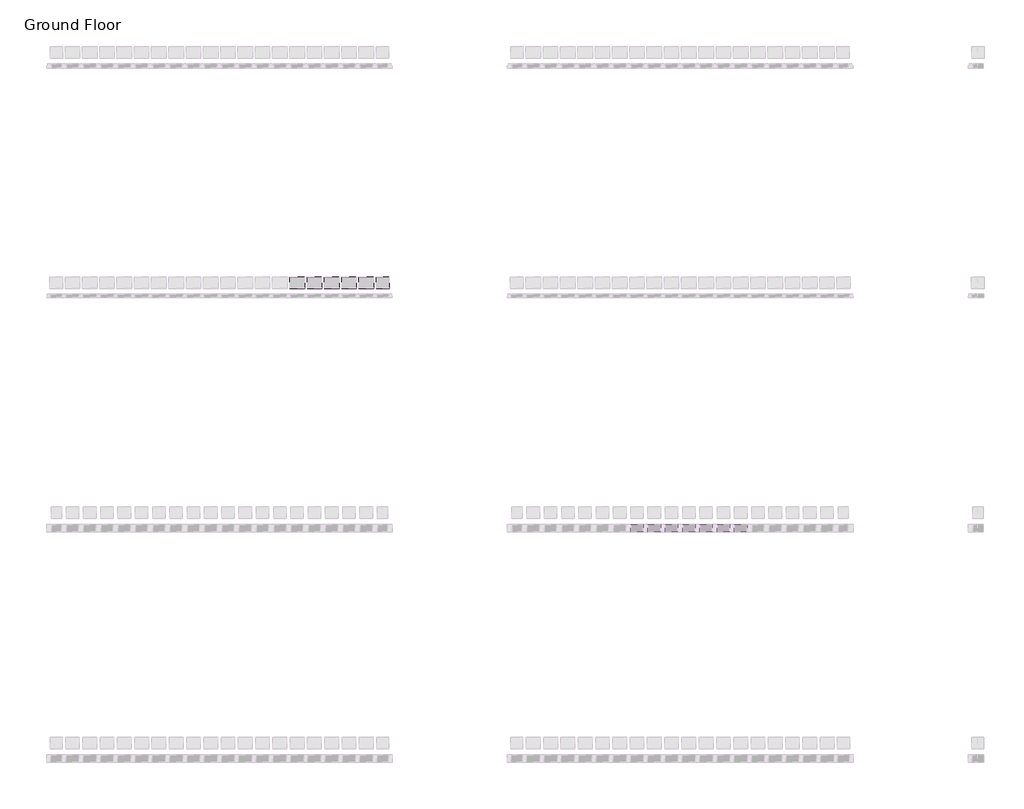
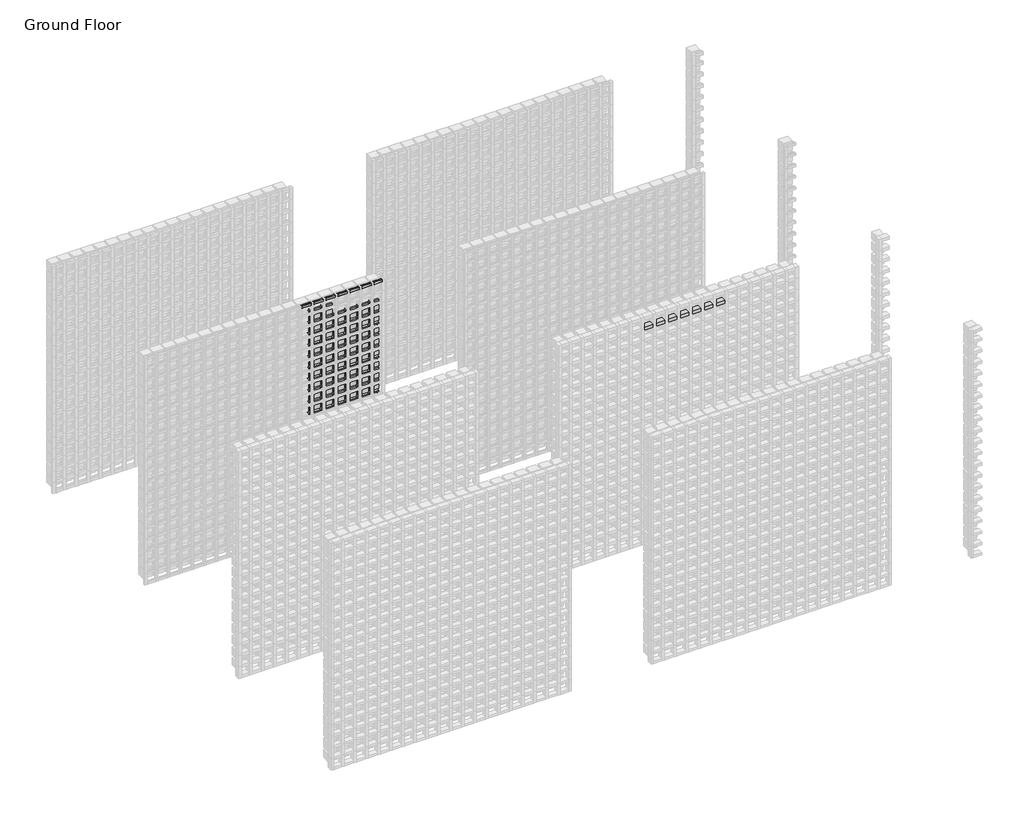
# One storey, part 100 of 350: 110 plates, 27 members.
"""IFC4 building model written with IfcOpenShell, lengths in millimetres."""

from ifc_helpers import new_model, si_unit, origin, place, context, project, spatial, transform, mapped, element, save
from components import rectangular_mullion_d93f5598, rectangular_mullion_f1976eb1, rectangular_mullion_66d447bf, rectangular_mullion_02594090, rectangular_mullion_7f8dba3f, rectangular_mullion_790ae51e, rectangular_mullion_a370a012, empty_system_panel_empty_5a3607ba, empty_system_panel_empty_babc703c, empty_system_panel_empty_56815599, empty_system_panel_empty_50ac6329

model = new_model("IFC4")

# Units and contexts
model_context = context("Model", 3, world=origin())
ifc_project = project(units=[si_unit("LENGTHUNIT", "METRE", prefix="MILLI")], contexts=[model_context])

# Site, building, storey
site = spatial("IfcSite", under=ifc_project)
building = spatial("IfcBuilding", under=site)
storey = spatial("IfcBuildingStorey", under=building, Name="Ground Floor", Elevation=0.0)

# Members
placement = place(None, origin())
rectangular_mullion_shape = rectangular_mullion_d93f5598(model_context)
element("IfcMember", 1, ObjectType="Rectangular Mullion : Batten_Timber_Modinex_Austratus_Grid_Fascia_40x65_Blackbutt", at=placement, inside=storey, context=model_context, shape_type="MappedRepresentation", body=[
    mapped(rectangular_mullion_shape, transform((7096.4361642, 40968.2978302, 2850.0), x_axis=(0.0, 0.0, 1.0), y_axis=(0.0, -1.0, 0.0), z_axis=(1.0, 0.0, 0.0))),
])
element("IfcMember", 2, ObjectType="Rectangular Mullion : Batten_Timber_Modinex_Austratus_Grid_Fascia_40x65_Blackbutt", at=placement, inside=storey, context=model_context, shape_type="MappedRepresentation", body=[
    mapped(rectangular_mullion_shape, transform((7246.4361642, 40968.2978302, 2850.0), x_axis=(0.0, 0.0, 1.0), y_axis=(0.0, -1.0, 0.0), z_axis=(1.0, 0.0, 0.0))),
])
element("IfcMember", 3, ObjectType="Rectangular Mullion : Batten_Timber_Modinex_Austratus_Grid_Fascia_40x65_Blackbutt", at=placement, inside=storey, context=model_context, shape_type="MappedRepresentation", body=[
    mapped(rectangular_mullion_shape, transform((7396.4361642, 40968.2978302, 2850.0), x_axis=(0.0, 0.0, 1.0), y_axis=(0.0, -1.0, 0.0), z_axis=(1.0, 0.0, 0.0))),
])
element("IfcMember", 4, ObjectType="Rectangular Mullion : Batten_Timber_Modinex_Austratus_Grid_Fascia_40x65_Blackbutt", at=placement, inside=storey, context=model_context, shape_type="MappedRepresentation", body=[
    mapped(rectangular_mullion_shape, transform((7546.4361642, 40968.2978302, 2850.0), x_axis=(0.0, 0.0, 1.0), y_axis=(0.0, -1.0, 0.0), z_axis=(1.0, 0.0, 0.0))),
])
element("IfcMember", 5, ObjectType="Rectangular Mullion : Batten_Timber_Modinex_Austratus_Grid_Fascia_40x65_Blackbutt", at=placement, inside=storey, context=model_context, shape_type="MappedRepresentation", body=[
    mapped(rectangular_mullion_shape, transform((7696.4361642, 40968.2978302, 2850.0), x_axis=(0.0, 0.0, 1.0), y_axis=(0.0, -1.0, 0.0), z_axis=(1.0, 0.0, 0.0))),
])
element("IfcMember", 6, ObjectType="Rectangular Mullion : Batten_Timber_Modinex_Austratus_Grid_Fascia_40x65_Blackbutt", at=placement, inside=storey, context=model_context, shape_type="MappedRepresentation", body=[
    mapped(rectangular_mullion_shape, transform((7846.4361642, 40968.2978302, 2850.0), x_axis=(0.0, 0.0, 1.0), y_axis=(0.0, -1.0, 0.0), z_axis=(1.0, 0.0, 0.0))),
])
element("IfcMember", 7, ObjectType="Rectangular Mullion : Batten_Timber_Modinex_Austratus_Grid_Fascia_40x65_Blackbutt", at=placement, inside=storey, context=model_context, shape_type="MappedRepresentation", body=[
    mapped(rectangular_mullion_shape, transform((7996.4361642, 40968.2978302, 2850.0), x_axis=(0.0, 0.0, 1.0), y_axis=(0.0, -1.0, 0.0), z_axis=(1.0, 0.0, 0.0))),
])
rectangular_mullion_2_shape = rectangular_mullion_f1976eb1(model_context)
element("IfcMember", 8, ObjectType="Rectangular Mullion : Batten_Timber_Modinex_Austratus_Grid_Fin_30x30_AlaskanYellowCedar", at=placement, inside=storey, context=model_context, shape_type="MappedRepresentation", body=[
    mapped(rectangular_mullion_2_shape, transform((4016.4361642, 42968.2978302, 0.0), x_axis=(1.0, 0.0, 0.0), y_axis=(0.0, -1.0, 0.0), z_axis=(0.0, 0.0, -1.0))),
])
element("IfcMember", 9, ObjectType="Rectangular Mullion : Batten_Timber_Modinex_Austratus_Grid_Fin_30x30_AlaskanYellowCedar", at=placement, inside=storey, context=model_context, shape_type="MappedRepresentation", body=[
    mapped(rectangular_mullion_2_shape, transform((4166.4361642, 42968.2978302, 0.0), x_axis=(1.0, 0.0, 0.0), y_axis=(0.0, -1.0, 0.0), z_axis=(0.0, 0.0, -1.0))),
])
element("IfcMember", 10, ObjectType="Rectangular Mullion : Batten_Timber_Modinex_Austratus_Grid_Fin_30x30_AlaskanYellowCedar", at=placement, inside=storey, context=model_context, shape_type="MappedRepresentation", body=[
    mapped(rectangular_mullion_2_shape, transform((4316.4361642, 42968.2978302, 0.0), x_axis=(1.0, 0.0, 0.0), y_axis=(0.0, -1.0, 0.0), z_axis=(0.0, 0.0, -1.0))),
])
element("IfcMember", 11, ObjectType="Rectangular Mullion : Batten_Timber_Modinex_Austratus_Grid_Fin_30x30_AlaskanYellowCedar", at=placement, inside=storey, context=model_context, shape_type="MappedRepresentation", body=[
    mapped(rectangular_mullion_2_shape, transform((4466.4361642, 42968.2978302, 0.0), x_axis=(1.0, 0.0, 0.0), y_axis=(0.0, -1.0, 0.0), z_axis=(0.0, 0.0, -1.0))),
])
element("IfcMember", 12, ObjectType="Rectangular Mullion : Batten_Timber_Modinex_Austratus_Grid_Fin_30x30_AlaskanYellowCedar", at=placement, inside=storey, context=model_context, shape_type="MappedRepresentation", body=[
    mapped(rectangular_mullion_2_shape, transform((4616.4361642, 42968.2978302, 0.0), x_axis=(1.0, 0.0, 0.0), y_axis=(0.0, -1.0, 0.0), z_axis=(0.0, 0.0, -1.0))),
])
element("IfcMember", 13, ObjectType="Rectangular Mullion : Batten_Timber_Modinex_Austratus_Grid_Fin_30x30_AlaskanYellowCedar", at=placement, inside=storey, context=model_context, shape_type="MappedRepresentation", body=[
    mapped(rectangular_mullion_2_shape, transform((4766.4361642, 42968.2978302, 0.0), x_axis=(1.0, 0.0, 0.0), y_axis=(0.0, -1.0, 0.0), z_axis=(0.0, 0.0, -1.0))),
])
rectangular_mullion_3_shape = rectangular_mullion_66d447bf(model_context)
element("IfcMember", 14, ObjectType="Rectangular Mullion : Batten_Timber_Modinex_Austratus_Grid_Fin_30x30_AlaskanYellowCedar", at=placement, inside=storey, context=model_context, shape_type="MappedRepresentation", body=[
    mapped(rectangular_mullion_3_shape, transform((4886.4361639, 42968.2978302, 3000.0), x_axis=(0.0, 0.0, 1.0), y_axis=(0.0, -1.0, 0.0), z_axis=(1.0, 0.0, 0.0))),
])
rectangular_mullion_4_shape = rectangular_mullion_02594090(model_context)
element("IfcMember", 15, ObjectType="Rectangular Mullion : Batten_Timber_Modinex_Austratus_Grid_Fin_30x30_AlaskanYellowCedar", at=placement, inside=storey, context=model_context, shape_type="MappedRepresentation", body=[
    mapped(rectangular_mullion_4_shape, transform((4001.4361642, 42968.2978302, 3000.0), x_axis=(0.0, 0.0, 1.0), y_axis=(0.0, -1.0, 0.0), z_axis=(1.0, 0.0, 0.0))),
])
element("IfcMember", 16, ObjectType="Rectangular Mullion : Batten_Timber_Modinex_Austratus_Grid_Fin_30x30_AlaskanYellowCedar", at=placement, inside=storey, context=model_context, shape_type="MappedRepresentation", body=[
    mapped(rectangular_mullion_4_shape, transform((4151.4361642, 42968.2978302, 3000.0), x_axis=(0.0, 0.0, 1.0), y_axis=(0.0, -1.0, 0.0), z_axis=(1.0, 0.0, 0.0))),
])
element("IfcMember", 17, ObjectType="Rectangular Mullion : Batten_Timber_Modinex_Austratus_Grid_Fin_30x30_AlaskanYellowCedar", at=placement, inside=storey, context=model_context, shape_type="MappedRepresentation", body=[
    mapped(rectangular_mullion_4_shape, transform((4301.4361642, 42968.2978302, 3000.0), x_axis=(0.0, 0.0, 1.0), y_axis=(0.0, -1.0, 0.0), z_axis=(1.0, 0.0, 0.0))),
])
element("IfcMember", 18, ObjectType="Rectangular Mullion : Batten_Timber_Modinex_Austratus_Grid_Fin_30x30_AlaskanYellowCedar", at=placement, inside=storey, context=model_context, shape_type="MappedRepresentation", body=[
    mapped(rectangular_mullion_4_shape, transform((4451.4361642, 42968.2978302, 3000.0), x_axis=(0.0, 0.0, 1.0), y_axis=(0.0, -1.0, 0.0), z_axis=(1.0, 0.0, 0.0))),
])
element("IfcMember", 19, ObjectType="Rectangular Mullion : Batten_Timber_Modinex_Austratus_Grid_Fin_30x30_AlaskanYellowCedar", at=placement, inside=storey, context=model_context, shape_type="MappedRepresentation", body=[
    mapped(rectangular_mullion_4_shape, transform((4601.4361642, 42968.2978302, 3000.0), x_axis=(0.0, 0.0, 1.0), y_axis=(0.0, -1.0, 0.0), z_axis=(1.0, 0.0, 0.0))),
])
element("IfcMember", 20, ObjectType="Rectangular Mullion : Batten_Timber_Modinex_Austratus_Grid_Fin_30x30_AlaskanYellowCedar", at=placement, inside=storey, context=model_context, shape_type="MappedRepresentation", body=[
    mapped(rectangular_mullion_4_shape, transform((4751.4361642, 42968.2978302, 3000.0), x_axis=(0.0, 0.0, 1.0), y_axis=(0.0, -1.0, 0.0), z_axis=(1.0, 0.0, 0.0))),
])
rectangular_mullion_5_shape = rectangular_mullion_7f8dba3f(model_context)
element("IfcMember", 21, ObjectType="Rectangular Mullion : Batten_Timber_Modinex_Austratus_Grid_Fin_30x30_AlaskanYellowCedar", at=placement, inside=storey, context=model_context, shape_type="MappedRepresentation", body=[
    mapped(rectangular_mullion_5_shape, transform((4781.4361642, 42968.2978302, 0.0), x_axis=(0.0, 0.0, -1.0), y_axis=(0.0, -1.0, 0.0), z_axis=(-1.0, 0.0, 0.0))),
])
rectangular_mullion_6_shape = rectangular_mullion_790ae51e(model_context)
element("IfcMember", 22, ObjectType="Rectangular Mullion : Batten_Timber_Modinex_Austratus_Grid_Fin_30x30_AlaskanYellowCedar", at=placement, inside=storey, context=model_context, shape_type="MappedRepresentation", body=[
    mapped(rectangular_mullion_6_shape, transform((4031.4361642, 42968.2978302, 0.0), x_axis=(0.0, 0.0, -1.0), y_axis=(0.0, -1.0, 0.0), z_axis=(-1.0, 0.0, 0.0))),
])
element("IfcMember", 23, ObjectType="Rectangular Mullion : Batten_Timber_Modinex_Austratus_Grid_Fin_30x30_AlaskanYellowCedar", at=placement, inside=storey, context=model_context, shape_type="MappedRepresentation", body=[
    mapped(rectangular_mullion_6_shape, transform((4181.4361642, 42968.2978302, 0.0), x_axis=(0.0, 0.0, -1.0), y_axis=(0.0, -1.0, 0.0), z_axis=(-1.0, 0.0, 0.0))),
])
element("IfcMember", 24, ObjectType="Rectangular Mullion : Batten_Timber_Modinex_Austratus_Grid_Fin_30x30_AlaskanYellowCedar", at=placement, inside=storey, context=model_context, shape_type="MappedRepresentation", body=[
    mapped(rectangular_mullion_6_shape, transform((4331.4361642, 42968.2978302, 0.0), x_axis=(0.0, 0.0, -1.0), y_axis=(0.0, -1.0, 0.0), z_axis=(-1.0, 0.0, 0.0))),
])
element("IfcMember", 25, ObjectType="Rectangular Mullion : Batten_Timber_Modinex_Austratus_Grid_Fin_30x30_AlaskanYellowCedar", at=placement, inside=storey, context=model_context, shape_type="MappedRepresentation", body=[
    mapped(rectangular_mullion_6_shape, transform((4481.4361642, 42968.2978302, 0.0), x_axis=(0.0, 0.0, -1.0), y_axis=(0.0, -1.0, 0.0), z_axis=(-1.0, 0.0, 0.0))),
])
element("IfcMember", 26, ObjectType="Rectangular Mullion : Batten_Timber_Modinex_Austratus_Grid_Fin_30x30_AlaskanYellowCedar", at=placement, inside=storey, context=model_context, shape_type="MappedRepresentation", body=[
    mapped(rectangular_mullion_6_shape, transform((4631.4361642, 42968.2978302, 0.0), x_axis=(0.0, 0.0, -1.0), y_axis=(0.0, -1.0, 0.0), z_axis=(-1.0, 0.0, 0.0))),
])
rectangular_mullion_7_shape = rectangular_mullion_a370a012(model_context)
element("IfcMember", 27, ObjectType="Rectangular Mullion : Batten_Timber_Modinex_Austratus_Grid_Fin_30x30_AlaskanYellowCedar", at=placement, inside=storey, context=model_context, shape_type="MappedRepresentation", body=[
    mapped(rectangular_mullion_7_shape, transform((4916.4361639, 42968.2978302, 0.0), x_axis=(1.0, 0.0, 0.0), y_axis=(0.0, -1.0, 0.0), z_axis=(0.0, 0.0, -1.0))),
])

# Plates
empty_system_panel_empty_shape = empty_system_panel_empty_5a3607ba(model_context)
element("IfcPlate", 28, ObjectType="Empty System Panel : Empty", at=placement, inside=storey, context=model_context, shape_type="MappedRepresentation", body=[
    mapped(empty_system_panel_empty_shape, transform((4091.4361642, 42968.2978302, 160.812195), x_axis=(1.0, 0.0, 0.0), y_axis=(0.0, 1.0, 0.0), z_axis=(0.0, 0.0, 1.0))),
])
element("IfcPlate", 29, ObjectType="Empty System Panel : Empty", at=placement, inside=storey, context=model_context, shape_type="MappedRepresentation", body=[
    mapped(empty_system_panel_empty_shape, transform((4241.4361642, 42968.2978302, 160.812195), x_axis=(1.0, 0.0, 0.0), y_axis=(0.0, 1.0, 0.0), z_axis=(0.0, 0.0, 1.0))),
])
element("IfcPlate", 30, ObjectType="Empty System Panel : Empty", at=placement, inside=storey, context=model_context, shape_type="MappedRepresentation", body=[
    mapped(empty_system_panel_empty_shape, transform((4391.4361642, 42968.2978302, 160.812195), x_axis=(1.0, 0.0, 0.0), y_axis=(0.0, 1.0, 0.0), z_axis=(0.0, 0.0, 1.0))),
])
element("IfcPlate", 31, ObjectType="Empty System Panel : Empty", at=placement, inside=storey, context=model_context, shape_type="MappedRepresentation", body=[
    mapped(empty_system_panel_empty_shape, transform((4541.4361642, 42968.2978302, 160.812195), x_axis=(1.0, 0.0, 0.0), y_axis=(0.0, 1.0, 0.0), z_axis=(0.0, 0.0, 1.0))),
])
element("IfcPlate", 32, ObjectType="Empty System Panel : Empty", at=placement, inside=storey, context=model_context, shape_type="MappedRepresentation", body=[
    mapped(empty_system_panel_empty_shape, transform((4691.4361642, 42968.2978302, 160.812195), x_axis=(1.0, 0.0, 0.0), y_axis=(0.0, 1.0, 0.0), z_axis=(0.0, 0.0, 1.0))),
])
element("IfcPlate", 33, ObjectType="Empty System Panel : Empty", at=placement, inside=storey, context=model_context, shape_type="MappedRepresentation", body=[
    mapped(empty_system_panel_empty_shape, transform((4091.4361642, 42968.2978302, 310.812195), x_axis=(1.0, 0.0, 0.0), y_axis=(0.0, 1.0, 0.0), z_axis=(0.0, 0.0, 1.0))),
])
element("IfcPlate", 34, ObjectType="Empty System Panel : Empty", at=placement, inside=storey, context=model_context, shape_type="MappedRepresentation", body=[
    mapped(empty_system_panel_empty_shape, transform((4241.4361642, 42968.2978302, 310.812195), x_axis=(1.0, 0.0, 0.0), y_axis=(0.0, 1.0, 0.0), z_axis=(0.0, 0.0, 1.0))),
])
element("IfcPlate", 35, ObjectType="Empty System Panel : Empty", at=placement, inside=storey, context=model_context, shape_type="MappedRepresentation", body=[
    mapped(empty_system_panel_empty_shape, transform((4391.4361642, 42968.2978302, 310.812195), x_axis=(1.0, 0.0, 0.0), y_axis=(0.0, 1.0, 0.0), z_axis=(0.0, 0.0, 1.0))),
])
element("IfcPlate", 36, ObjectType="Empty System Panel : Empty", at=placement, inside=storey, context=model_context, shape_type="MappedRepresentation", body=[
    mapped(empty_system_panel_empty_shape, transform((4541.4361642, 42968.2978302, 310.812195), x_axis=(1.0, 0.0, 0.0), y_axis=(0.0, 1.0, 0.0), z_axis=(0.0, 0.0, 1.0))),
])
element("IfcPlate", 37, ObjectType="Empty System Panel : Empty", at=placement, inside=storey, context=model_context, shape_type="MappedRepresentation", body=[
    mapped(empty_system_panel_empty_shape, transform((4691.4361642, 42968.2978302, 310.812195), x_axis=(1.0, 0.0, 0.0), y_axis=(0.0, 1.0, 0.0), z_axis=(0.0, 0.0, 1.0))),
])
element("IfcPlate", 38, ObjectType="Empty System Panel : Empty", at=placement, inside=storey, context=model_context, shape_type="MappedRepresentation", body=[
    mapped(empty_system_panel_empty_shape, transform((4091.4361642, 42968.2978302, 460.812195), x_axis=(1.0, 0.0, 0.0), y_axis=(0.0, 1.0, 0.0), z_axis=(0.0, 0.0, 1.0))),
])
element("IfcPlate", 39, ObjectType="Empty System Panel : Empty", at=placement, inside=storey, context=model_context, shape_type="MappedRepresentation", body=[
    mapped(empty_system_panel_empty_shape, transform((4241.4361642, 42968.2978302, 460.812195), x_axis=(1.0, 0.0, 0.0), y_axis=(0.0, 1.0, 0.0), z_axis=(0.0, 0.0, 1.0))),
])
element("IfcPlate", 40, ObjectType="Empty System Panel : Empty", at=placement, inside=storey, context=model_context, shape_type="MappedRepresentation", body=[
    mapped(empty_system_panel_empty_shape, transform((4391.4361642, 42968.2978302, 460.812195), x_axis=(1.0, 0.0, 0.0), y_axis=(0.0, 1.0, 0.0), z_axis=(0.0, 0.0, 1.0))),
])
element("IfcPlate", 41, ObjectType="Empty System Panel : Empty", at=placement, inside=storey, context=model_context, shape_type="MappedRepresentation", body=[
    mapped(empty_system_panel_empty_shape, transform((4541.4361642, 42968.2978302, 460.812195), x_axis=(1.0, 0.0, 0.0), y_axis=(0.0, 1.0, 0.0), z_axis=(0.0, 0.0, 1.0))),
])
element("IfcPlate", 42, ObjectType="Empty System Panel : Empty", at=placement, inside=storey, context=model_context, shape_type="MappedRepresentation", body=[
    mapped(empty_system_panel_empty_shape, transform((4691.4361642, 42968.2978302, 460.812195), x_axis=(1.0, 0.0, 0.0), y_axis=(0.0, 1.0, 0.0), z_axis=(0.0, 0.0, 1.0))),
])
element("IfcPlate", 43, ObjectType="Empty System Panel : Empty", at=placement, inside=storey, context=model_context, shape_type="MappedRepresentation", body=[
    mapped(empty_system_panel_empty_shape, transform((4091.4361642, 42968.2978302, 610.812195), x_axis=(1.0, 0.0, 0.0), y_axis=(0.0, 1.0, 0.0), z_axis=(0.0, 0.0, 1.0))),
])
element("IfcPlate", 44, ObjectType="Empty System Panel : Empty", at=placement, inside=storey, context=model_context, shape_type="MappedRepresentation", body=[
    mapped(empty_system_panel_empty_shape, transform((4241.4361642, 42968.2978302, 610.812195), x_axis=(1.0, 0.0, 0.0), y_axis=(0.0, 1.0, 0.0), z_axis=(0.0, 0.0, 1.0))),
])
element("IfcPlate", 45, ObjectType="Empty System Panel : Empty", at=placement, inside=storey, context=model_context, shape_type="MappedRepresentation", body=[
    mapped(empty_system_panel_empty_shape, transform((4391.4361642, 42968.2978302, 610.812195), x_axis=(1.0, 0.0, 0.0), y_axis=(0.0, 1.0, 0.0), z_axis=(0.0, 0.0, 1.0))),
])
element("IfcPlate", 46, ObjectType="Empty System Panel : Empty", at=placement, inside=storey, context=model_context, shape_type="MappedRepresentation", body=[
    mapped(empty_system_panel_empty_shape, transform((4541.4361642, 42968.2978302, 610.812195), x_axis=(1.0, 0.0, 0.0), y_axis=(0.0, 1.0, 0.0), z_axis=(0.0, 0.0, 1.0))),
])
element("IfcPlate", 47, ObjectType="Empty System Panel : Empty", at=placement, inside=storey, context=model_context, shape_type="MappedRepresentation", body=[
    mapped(empty_system_panel_empty_shape, transform((4691.4361642, 42968.2978302, 610.812195), x_axis=(1.0, 0.0, 0.0), y_axis=(0.0, 1.0, 0.0), z_axis=(0.0, 0.0, 1.0))),
])
element("IfcPlate", 48, ObjectType="Empty System Panel : Empty", at=placement, inside=storey, context=model_context, shape_type="MappedRepresentation", body=[
    mapped(empty_system_panel_empty_shape, transform((4091.4361642, 42968.2978302, 760.812195), x_axis=(1.0, 0.0, 0.0), y_axis=(0.0, 1.0, 0.0), z_axis=(0.0, 0.0, 1.0))),
])
element("IfcPlate", 49, ObjectType="Empty System Panel : Empty", at=placement, inside=storey, context=model_context, shape_type="MappedRepresentation", body=[
    mapped(empty_system_panel_empty_shape, transform((4241.4361642, 42968.2978302, 760.812195), x_axis=(1.0, 0.0, 0.0), y_axis=(0.0, 1.0, 0.0), z_axis=(0.0, 0.0, 1.0))),
])
element("IfcPlate", 50, ObjectType="Empty System Panel : Empty", at=placement, inside=storey, context=model_context, shape_type="MappedRepresentation", body=[
    mapped(empty_system_panel_empty_shape, transform((4391.4361642, 42968.2978302, 760.812195), x_axis=(1.0, 0.0, 0.0), y_axis=(0.0, 1.0, 0.0), z_axis=(0.0, 0.0, 1.0))),
])
element("IfcPlate", 51, ObjectType="Empty System Panel : Empty", at=placement, inside=storey, context=model_context, shape_type="MappedRepresentation", body=[
    mapped(empty_system_panel_empty_shape, transform((4541.4361642, 42968.2978302, 760.812195), x_axis=(1.0, 0.0, 0.0), y_axis=(0.0, 1.0, 0.0), z_axis=(0.0, 0.0, 1.0))),
])
element("IfcPlate", 52, ObjectType="Empty System Panel : Empty", at=placement, inside=storey, context=model_context, shape_type="MappedRepresentation", body=[
    mapped(empty_system_panel_empty_shape, transform((4691.4361642, 42968.2978302, 760.812195), x_axis=(1.0, 0.0, 0.0), y_axis=(0.0, 1.0, 0.0), z_axis=(0.0, 0.0, 1.0))),
])
element("IfcPlate", 53, ObjectType="Empty System Panel : Empty", at=placement, inside=storey, context=model_context, shape_type="MappedRepresentation", body=[
    mapped(empty_system_panel_empty_shape, transform((4091.4361642, 42968.2978302, 910.812195), x_axis=(1.0, 0.0, 0.0), y_axis=(0.0, 1.0, 0.0), z_axis=(0.0, 0.0, 1.0))),
])
element("IfcPlate", 54, ObjectType="Empty System Panel : Empty", at=placement, inside=storey, context=model_context, shape_type="MappedRepresentation", body=[
    mapped(empty_system_panel_empty_shape, transform((4241.4361642, 42968.2978302, 910.812195), x_axis=(1.0, 0.0, 0.0), y_axis=(0.0, 1.0, 0.0), z_axis=(0.0, 0.0, 1.0))),
])
element("IfcPlate", 55, ObjectType="Empty System Panel : Empty", at=placement, inside=storey, context=model_context, shape_type="MappedRepresentation", body=[
    mapped(empty_system_panel_empty_shape, transform((4391.4361642, 42968.2978302, 910.812195), x_axis=(1.0, 0.0, 0.0), y_axis=(0.0, 1.0, 0.0), z_axis=(0.0, 0.0, 1.0))),
])
element("IfcPlate", 56, ObjectType="Empty System Panel : Empty", at=placement, inside=storey, context=model_context, shape_type="MappedRepresentation", body=[
    mapped(empty_system_panel_empty_shape, transform((4541.4361642, 42968.2978302, 910.812195), x_axis=(1.0, 0.0, 0.0), y_axis=(0.0, 1.0, 0.0), z_axis=(0.0, 0.0, 1.0))),
])
element("IfcPlate", 57, ObjectType="Empty System Panel : Empty", at=placement, inside=storey, context=model_context, shape_type="MappedRepresentation", body=[
    mapped(empty_system_panel_empty_shape, transform((4691.4361642, 42968.2978302, 910.812195), x_axis=(1.0, 0.0, 0.0), y_axis=(0.0, 1.0, 0.0), z_axis=(0.0, 0.0, 1.0))),
])
element("IfcPlate", 58, ObjectType="Empty System Panel : Empty", at=placement, inside=storey, context=model_context, shape_type="MappedRepresentation", body=[
    mapped(empty_system_panel_empty_shape, transform((4091.4361642, 42968.2978302, 1060.812195), x_axis=(1.0, 0.0, 0.0), y_axis=(0.0, 1.0, 0.0), z_axis=(0.0, 0.0, 1.0))),
])
element("IfcPlate", 59, ObjectType="Empty System Panel : Empty", at=placement, inside=storey, context=model_context, shape_type="MappedRepresentation", body=[
    mapped(empty_system_panel_empty_shape, transform((4241.4361642, 42968.2978302, 1060.812195), x_axis=(1.0, 0.0, 0.0), y_axis=(0.0, 1.0, 0.0), z_axis=(0.0, 0.0, 1.0))),
])
element("IfcPlate", 60, ObjectType="Empty System Panel : Empty", at=placement, inside=storey, context=model_context, shape_type="MappedRepresentation", body=[
    mapped(empty_system_panel_empty_shape, transform((4391.4361642, 42968.2978302, 1060.812195), x_axis=(1.0, 0.0, 0.0), y_axis=(0.0, 1.0, 0.0), z_axis=(0.0, 0.0, 1.0))),
])
element("IfcPlate", 61, ObjectType="Empty System Panel : Empty", at=placement, inside=storey, context=model_context, shape_type="MappedRepresentation", body=[
    mapped(empty_system_panel_empty_shape, transform((4541.4361642, 42968.2978302, 1060.812195), x_axis=(1.0, 0.0, 0.0), y_axis=(0.0, 1.0, 0.0), z_axis=(0.0, 0.0, 1.0))),
])
element("IfcPlate", 62, ObjectType="Empty System Panel : Empty", at=placement, inside=storey, context=model_context, shape_type="MappedRepresentation", body=[
    mapped(empty_system_panel_empty_shape, transform((4691.4361642, 42968.2978302, 1060.812195), x_axis=(1.0, 0.0, 0.0), y_axis=(0.0, 1.0, 0.0), z_axis=(0.0, 0.0, 1.0))),
])
element("IfcPlate", 63, ObjectType="Empty System Panel : Empty", at=placement, inside=storey, context=model_context, shape_type="MappedRepresentation", body=[
    mapped(empty_system_panel_empty_shape, transform((4091.4361642, 42968.2978302, 1210.812195), x_axis=(1.0, 0.0, 0.0), y_axis=(0.0, 1.0, 0.0), z_axis=(0.0, 0.0, 1.0))),
])
element("IfcPlate", 64, ObjectType="Empty System Panel : Empty", at=placement, inside=storey, context=model_context, shape_type="MappedRepresentation", body=[
    mapped(empty_system_panel_empty_shape, transform((4241.4361642, 42968.2978302, 1210.812195), x_axis=(1.0, 0.0, 0.0), y_axis=(0.0, 1.0, 0.0), z_axis=(0.0, 0.0, 1.0))),
])
element("IfcPlate", 65, ObjectType="Empty System Panel : Empty", at=placement, inside=storey, context=model_context, shape_type="MappedRepresentation", body=[
    mapped(empty_system_panel_empty_shape, transform((4391.4361642, 42968.2978302, 1210.812195), x_axis=(1.0, 0.0, 0.0), y_axis=(0.0, 1.0, 0.0), z_axis=(0.0, 0.0, 1.0))),
])
element("IfcPlate", 66, ObjectType="Empty System Panel : Empty", at=placement, inside=storey, context=model_context, shape_type="MappedRepresentation", body=[
    mapped(empty_system_panel_empty_shape, transform((4541.4361642, 42968.2978302, 1210.812195), x_axis=(1.0, 0.0, 0.0), y_axis=(0.0, 1.0, 0.0), z_axis=(0.0, 0.0, 1.0))),
])
element("IfcPlate", 67, ObjectType="Empty System Panel : Empty", at=placement, inside=storey, context=model_context, shape_type="MappedRepresentation", body=[
    mapped(empty_system_panel_empty_shape, transform((4691.4361642, 42968.2978302, 1210.812195), x_axis=(1.0, 0.0, 0.0), y_axis=(0.0, 1.0, 0.0), z_axis=(0.0, 0.0, 1.0))),
])
element("IfcPlate", 68, ObjectType="Empty System Panel : Empty", at=placement, inside=storey, context=model_context, shape_type="MappedRepresentation", body=[
    mapped(empty_system_panel_empty_shape, transform((4091.4361642, 42968.2978302, 1360.812195), x_axis=(1.0, 0.0, 0.0), y_axis=(0.0, 1.0, 0.0), z_axis=(0.0, 0.0, 1.0))),
])
element("IfcPlate", 69, ObjectType="Empty System Panel : Empty", at=placement, inside=storey, context=model_context, shape_type="MappedRepresentation", body=[
    mapped(empty_system_panel_empty_shape, transform((4241.4361642, 42968.2978302, 1360.812195), x_axis=(1.0, 0.0, 0.0), y_axis=(0.0, 1.0, 0.0), z_axis=(0.0, 0.0, 1.0))),
])
element("IfcPlate", 70, ObjectType="Empty System Panel : Empty", at=placement, inside=storey, context=model_context, shape_type="MappedRepresentation", body=[
    mapped(empty_system_panel_empty_shape, transform((4391.4361642, 42968.2978302, 1360.812195), x_axis=(1.0, 0.0, 0.0), y_axis=(0.0, 1.0, 0.0), z_axis=(0.0, 0.0, 1.0))),
])
element("IfcPlate", 71, ObjectType="Empty System Panel : Empty", at=placement, inside=storey, context=model_context, shape_type="MappedRepresentation", body=[
    mapped(empty_system_panel_empty_shape, transform((4541.4361642, 42968.2978302, 1360.812195), x_axis=(1.0, 0.0, 0.0), y_axis=(0.0, 1.0, 0.0), z_axis=(0.0, 0.0, 1.0))),
])
element("IfcPlate", 72, ObjectType="Empty System Panel : Empty", at=placement, inside=storey, context=model_context, shape_type="MappedRepresentation", body=[
    mapped(empty_system_panel_empty_shape, transform((4691.4361642, 42968.2978302, 1360.812195), x_axis=(1.0, 0.0, 0.0), y_axis=(0.0, 1.0, 0.0), z_axis=(0.0, 0.0, 1.0))),
])
element("IfcPlate", 73, ObjectType="Empty System Panel : Empty", at=placement, inside=storey, context=model_context, shape_type="MappedRepresentation", body=[
    mapped(empty_system_panel_empty_shape, transform((4091.4361642, 42968.2978302, 1510.812195), x_axis=(1.0, 0.0, 0.0), y_axis=(0.0, 1.0, 0.0), z_axis=(0.0, 0.0, 1.0))),
])
element("IfcPlate", 74, ObjectType="Empty System Panel : Empty", at=placement, inside=storey, context=model_context, shape_type="MappedRepresentation", body=[
    mapped(empty_system_panel_empty_shape, transform((4241.4361642, 42968.2978302, 1510.812195), x_axis=(1.0, 0.0, 0.0), y_axis=(0.0, 1.0, 0.0), z_axis=(0.0, 0.0, 1.0))),
])
element("IfcPlate", 75, ObjectType="Empty System Panel : Empty", at=placement, inside=storey, context=model_context, shape_type="MappedRepresentation", body=[
    mapped(empty_system_panel_empty_shape, transform((4391.4361642, 42968.2978302, 1510.812195), x_axis=(1.0, 0.0, 0.0), y_axis=(0.0, 1.0, 0.0), z_axis=(0.0, 0.0, 1.0))),
])
element("IfcPlate", 76, ObjectType="Empty System Panel : Empty", at=placement, inside=storey, context=model_context, shape_type="MappedRepresentation", body=[
    mapped(empty_system_panel_empty_shape, transform((4541.4361642, 42968.2978302, 1510.812195), x_axis=(1.0, 0.0, 0.0), y_axis=(0.0, 1.0, 0.0), z_axis=(0.0, 0.0, 1.0))),
])
element("IfcPlate", 77, ObjectType="Empty System Panel : Empty", at=placement, inside=storey, context=model_context, shape_type="MappedRepresentation", body=[
    mapped(empty_system_panel_empty_shape, transform((4691.4361642, 42968.2978302, 1510.812195), x_axis=(1.0, 0.0, 0.0), y_axis=(0.0, 1.0, 0.0), z_axis=(0.0, 0.0, 1.0))),
])
element("IfcPlate", 78, ObjectType="Empty System Panel : Empty", at=placement, inside=storey, context=model_context, shape_type="MappedRepresentation", body=[
    mapped(empty_system_panel_empty_shape, transform((4091.4361642, 42968.2978302, 1660.812195), x_axis=(1.0, 0.0, 0.0), y_axis=(0.0, 1.0, 0.0), z_axis=(0.0, 0.0, 1.0))),
])
element("IfcPlate", 79, ObjectType="Empty System Panel : Empty", at=placement, inside=storey, context=model_context, shape_type="MappedRepresentation", body=[
    mapped(empty_system_panel_empty_shape, transform((4241.4361642, 42968.2978302, 1660.812195), x_axis=(1.0, 0.0, 0.0), y_axis=(0.0, 1.0, 0.0), z_axis=(0.0, 0.0, 1.0))),
])
element("IfcPlate", 80, ObjectType="Empty System Panel : Empty", at=placement, inside=storey, context=model_context, shape_type="MappedRepresentation", body=[
    mapped(empty_system_panel_empty_shape, transform((4391.4361642, 42968.2978302, 1660.812195), x_axis=(1.0, 0.0, 0.0), y_axis=(0.0, 1.0, 0.0), z_axis=(0.0, 0.0, 1.0))),
])
element("IfcPlate", 81, ObjectType="Empty System Panel : Empty", at=placement, inside=storey, context=model_context, shape_type="MappedRepresentation", body=[
    mapped(empty_system_panel_empty_shape, transform((4541.4361642, 42968.2978302, 1660.812195), x_axis=(1.0, 0.0, 0.0), y_axis=(0.0, 1.0, 0.0), z_axis=(0.0, 0.0, 1.0))),
])
element("IfcPlate", 82, ObjectType="Empty System Panel : Empty", at=placement, inside=storey, context=model_context, shape_type="MappedRepresentation", body=[
    mapped(empty_system_panel_empty_shape, transform((4691.4361642, 42968.2978302, 1660.812195), x_axis=(1.0, 0.0, 0.0), y_axis=(0.0, 1.0, 0.0), z_axis=(0.0, 0.0, 1.0))),
])
element("IfcPlate", 83, ObjectType="Empty System Panel : Empty", at=placement, inside=storey, context=model_context, shape_type="MappedRepresentation", body=[
    mapped(empty_system_panel_empty_shape, transform((4091.4361642, 42968.2978302, 1810.812195), x_axis=(1.0, 0.0, 0.0), y_axis=(0.0, 1.0, 0.0), z_axis=(0.0, 0.0, 1.0))),
])
element("IfcPlate", 84, ObjectType="Empty System Panel : Empty", at=placement, inside=storey, context=model_context, shape_type="MappedRepresentation", body=[
    mapped(empty_system_panel_empty_shape, transform((4241.4361642, 42968.2978302, 1810.812195), x_axis=(1.0, 0.0, 0.0), y_axis=(0.0, 1.0, 0.0), z_axis=(0.0, 0.0, 1.0))),
])
element("IfcPlate", 85, ObjectType="Empty System Panel : Empty", at=placement, inside=storey, context=model_context, shape_type="MappedRepresentation", body=[
    mapped(empty_system_panel_empty_shape, transform((4391.4361642, 42968.2978302, 1810.812195), x_axis=(1.0, 0.0, 0.0), y_axis=(0.0, 1.0, 0.0), z_axis=(0.0, 0.0, 1.0))),
])
element("IfcPlate", 86, ObjectType="Empty System Panel : Empty", at=placement, inside=storey, context=model_context, shape_type="MappedRepresentation", body=[
    mapped(empty_system_panel_empty_shape, transform((4541.4361642, 42968.2978302, 1810.812195), x_axis=(1.0, 0.0, 0.0), y_axis=(0.0, 1.0, 0.0), z_axis=(0.0, 0.0, 1.0))),
])
element("IfcPlate", 87, ObjectType="Empty System Panel : Empty", at=placement, inside=storey, context=model_context, shape_type="MappedRepresentation", body=[
    mapped(empty_system_panel_empty_shape, transform((4691.4361642, 42968.2978302, 1810.812195), x_axis=(1.0, 0.0, 0.0), y_axis=(0.0, 1.0, 0.0), z_axis=(0.0, 0.0, 1.0))),
])
element("IfcPlate", 88, ObjectType="Empty System Panel : Empty", at=placement, inside=storey, context=model_context, shape_type="MappedRepresentation", body=[
    mapped(empty_system_panel_empty_shape, transform((4091.4361642, 42968.2978302, 1960.812195), x_axis=(1.0, 0.0, 0.0), y_axis=(0.0, 1.0, 0.0), z_axis=(0.0, 0.0, 1.0))),
])
element("IfcPlate", 89, ObjectType="Empty System Panel : Empty", at=placement, inside=storey, context=model_context, shape_type="MappedRepresentation", body=[
    mapped(empty_system_panel_empty_shape, transform((4241.4361642, 42968.2978302, 1960.812195), x_axis=(1.0, 0.0, 0.0), y_axis=(0.0, 1.0, 0.0), z_axis=(0.0, 0.0, 1.0))),
])
element("IfcPlate", 90, ObjectType="Empty System Panel : Empty", at=placement, inside=storey, context=model_context, shape_type="MappedRepresentation", body=[
    mapped(empty_system_panel_empty_shape, transform((4391.4361642, 42968.2978302, 1960.812195), x_axis=(1.0, 0.0, 0.0), y_axis=(0.0, 1.0, 0.0), z_axis=(0.0, 0.0, 1.0))),
])
element("IfcPlate", 91, ObjectType="Empty System Panel : Empty", at=placement, inside=storey, context=model_context, shape_type="MappedRepresentation", body=[
    mapped(empty_system_panel_empty_shape, transform((4541.4361642, 42968.2978302, 1960.812195), x_axis=(1.0, 0.0, 0.0), y_axis=(0.0, 1.0, 0.0), z_axis=(0.0, 0.0, 1.0))),
])
element("IfcPlate", 92, ObjectType="Empty System Panel : Empty", at=placement, inside=storey, context=model_context, shape_type="MappedRepresentation", body=[
    mapped(empty_system_panel_empty_shape, transform((4691.4361642, 42968.2978302, 1960.812195), x_axis=(1.0, 0.0, 0.0), y_axis=(0.0, 1.0, 0.0), z_axis=(0.0, 0.0, 1.0))),
])
element("IfcPlate", 93, ObjectType="Empty System Panel : Empty", at=placement, inside=storey, context=model_context, shape_type="MappedRepresentation", body=[
    mapped(empty_system_panel_empty_shape, transform((4091.4361642, 42968.2978302, 2110.812195), x_axis=(1.0, 0.0, 0.0), y_axis=(0.0, 1.0, 0.0), z_axis=(0.0, 0.0, 1.0))),
])
element("IfcPlate", 94, ObjectType="Empty System Panel : Empty", at=placement, inside=storey, context=model_context, shape_type="MappedRepresentation", body=[
    mapped(empty_system_panel_empty_shape, transform((4241.4361642, 42968.2978302, 2110.812195), x_axis=(1.0, 0.0, 0.0), y_axis=(0.0, 1.0, 0.0), z_axis=(0.0, 0.0, 1.0))),
])
element("IfcPlate", 95, ObjectType="Empty System Panel : Empty", at=placement, inside=storey, context=model_context, shape_type="MappedRepresentation", body=[
    mapped(empty_system_panel_empty_shape, transform((4391.4361642, 42968.2978302, 2110.812195), x_axis=(1.0, 0.0, 0.0), y_axis=(0.0, 1.0, 0.0), z_axis=(0.0, 0.0, 1.0))),
])
element("IfcPlate", 96, ObjectType="Empty System Panel : Empty", at=placement, inside=storey, context=model_context, shape_type="MappedRepresentation", body=[
    mapped(empty_system_panel_empty_shape, transform((4541.4361642, 42968.2978302, 2110.812195), x_axis=(1.0, 0.0, 0.0), y_axis=(0.0, 1.0, 0.0), z_axis=(0.0, 0.0, 1.0))),
])
element("IfcPlate", 97, ObjectType="Empty System Panel : Empty", at=placement, inside=storey, context=model_context, shape_type="MappedRepresentation", body=[
    mapped(empty_system_panel_empty_shape, transform((4691.4361642, 42968.2978302, 2110.812195), x_axis=(1.0, 0.0, 0.0), y_axis=(0.0, 1.0, 0.0), z_axis=(0.0, 0.0, 1.0))),
])
element("IfcPlate", 98, ObjectType="Empty System Panel : Empty", at=placement, inside=storey, context=model_context, shape_type="MappedRepresentation", body=[
    mapped(empty_system_panel_empty_shape, transform((4091.4361642, 42968.2978302, 2260.812195), x_axis=(1.0, 0.0, 0.0), y_axis=(0.0, 1.0, 0.0), z_axis=(0.0, 0.0, 1.0))),
])
element("IfcPlate", 99, ObjectType="Empty System Panel : Empty", at=placement, inside=storey, context=model_context, shape_type="MappedRepresentation", body=[
    mapped(empty_system_panel_empty_shape, transform((4241.4361642, 42968.2978302, 2260.812195), x_axis=(1.0, 0.0, 0.0), y_axis=(0.0, 1.0, 0.0), z_axis=(0.0, 0.0, 1.0))),
])
element("IfcPlate", 100, ObjectType="Empty System Panel : Empty", at=placement, inside=storey, context=model_context, shape_type="MappedRepresentation", body=[
    mapped(empty_system_panel_empty_shape, transform((4391.4361642, 42968.2978302, 2260.812195), x_axis=(1.0, 0.0, 0.0), y_axis=(0.0, 1.0, 0.0), z_axis=(0.0, 0.0, 1.0))),
])
element("IfcPlate", 101, ObjectType="Empty System Panel : Empty", at=placement, inside=storey, context=model_context, shape_type="MappedRepresentation", body=[
    mapped(empty_system_panel_empty_shape, transform((4541.4361642, 42968.2978302, 2260.812195), x_axis=(1.0, 0.0, 0.0), y_axis=(0.0, 1.0, 0.0), z_axis=(0.0, 0.0, 1.0))),
])
element("IfcPlate", 102, ObjectType="Empty System Panel : Empty", at=placement, inside=storey, context=model_context, shape_type="MappedRepresentation", body=[
    mapped(empty_system_panel_empty_shape, transform((4691.4361642, 42968.2978302, 2260.812195), x_axis=(1.0, 0.0, 0.0), y_axis=(0.0, 1.0, 0.0), z_axis=(0.0, 0.0, 1.0))),
])
element("IfcPlate", 103, ObjectType="Empty System Panel : Empty", at=placement, inside=storey, context=model_context, shape_type="MappedRepresentation", body=[
    mapped(empty_system_panel_empty_shape, transform((4091.4361642, 42968.2978302, 2410.812195), x_axis=(1.0, 0.0, 0.0), y_axis=(0.0, 1.0, 0.0), z_axis=(0.0, 0.0, 1.0))),
])
element("IfcPlate", 104, ObjectType="Empty System Panel : Empty", at=placement, inside=storey, context=model_context, shape_type="MappedRepresentation", body=[
    mapped(empty_system_panel_empty_shape, transform((4241.4361642, 42968.2978302, 2410.812195), x_axis=(1.0, 0.0, 0.0), y_axis=(0.0, 1.0, 0.0), z_axis=(0.0, 0.0, 1.0))),
])
element("IfcPlate", 105, ObjectType="Empty System Panel : Empty", at=placement, inside=storey, context=model_context, shape_type="MappedRepresentation", body=[
    mapped(empty_system_panel_empty_shape, transform((4391.4361642, 42968.2978302, 2410.812195), x_axis=(1.0, 0.0, 0.0), y_axis=(0.0, 1.0, 0.0), z_axis=(0.0, 0.0, 1.0))),
])
element("IfcPlate", 106, ObjectType="Empty System Panel : Empty", at=placement, inside=storey, context=model_context, shape_type="MappedRepresentation", body=[
    mapped(empty_system_panel_empty_shape, transform((4541.4361642, 42968.2978302, 2410.812195), x_axis=(1.0, 0.0, 0.0), y_axis=(0.0, 1.0, 0.0), z_axis=(0.0, 0.0, 1.0))),
])
element("IfcPlate", 107, ObjectType="Empty System Panel : Empty", at=placement, inside=storey, context=model_context, shape_type="MappedRepresentation", body=[
    mapped(empty_system_panel_empty_shape, transform((4691.4361642, 42968.2978302, 2410.812195), x_axis=(1.0, 0.0, 0.0), y_axis=(0.0, 1.0, 0.0), z_axis=(0.0, 0.0, 1.0))),
])
element("IfcPlate", 108, ObjectType="Empty System Panel : Empty", at=placement, inside=storey, context=model_context, shape_type="MappedRepresentation", body=[
    mapped(empty_system_panel_empty_shape, transform((4091.4361642, 42968.2978302, 2560.812195), x_axis=(1.0, 0.0, 0.0), y_axis=(0.0, 1.0, 0.0), z_axis=(0.0, 0.0, 1.0))),
])
element("IfcPlate", 109, ObjectType="Empty System Panel : Empty", at=placement, inside=storey, context=model_context, shape_type="MappedRepresentation", body=[
    mapped(empty_system_panel_empty_shape, transform((4241.4361642, 42968.2978302, 2560.812195), x_axis=(1.0, 0.0, 0.0), y_axis=(0.0, 1.0, 0.0), z_axis=(0.0, 0.0, 1.0))),
])
element("IfcPlate", 110, ObjectType="Empty System Panel : Empty", at=placement, inside=storey, context=model_context, shape_type="MappedRepresentation", body=[
    mapped(empty_system_panel_empty_shape, transform((4391.4361642, 42968.2978302, 2560.812195), x_axis=(1.0, 0.0, 0.0), y_axis=(0.0, 1.0, 0.0), z_axis=(0.0, 0.0, 1.0))),
])
element("IfcPlate", 111, ObjectType="Empty System Panel : Empty", at=placement, inside=storey, context=model_context, shape_type="MappedRepresentation", body=[
    mapped(empty_system_panel_empty_shape, transform((4541.4361642, 42968.2978302, 2560.812195), x_axis=(1.0, 0.0, 0.0), y_axis=(0.0, 1.0, 0.0), z_axis=(0.0, 0.0, 1.0))),
])
element("IfcPlate", 112, ObjectType="Empty System Panel : Empty", at=placement, inside=storey, context=model_context, shape_type="MappedRepresentation", body=[
    mapped(empty_system_panel_empty_shape, transform((4691.4361642, 42968.2978302, 2560.812195), x_axis=(1.0, 0.0, 0.0), y_axis=(0.0, 1.0, 0.0), z_axis=(0.0, 0.0, 1.0))),
])
element("IfcPlate", 113, ObjectType="Empty System Panel : Empty", at=placement, inside=storey, context=model_context, shape_type="MappedRepresentation", body=[
    mapped(empty_system_panel_empty_shape, transform((4091.4361642, 42968.2978302, 2710.812195), x_axis=(1.0, 0.0, 0.0), y_axis=(0.0, 1.0, 0.0), z_axis=(0.0, 0.0, 1.0))),
])
element("IfcPlate", 114, ObjectType="Empty System Panel : Empty", at=placement, inside=storey, context=model_context, shape_type="MappedRepresentation", body=[
    mapped(empty_system_panel_empty_shape, transform((4241.4361642, 42968.2978302, 2710.812195), x_axis=(1.0, 0.0, 0.0), y_axis=(0.0, 1.0, 0.0), z_axis=(0.0, 0.0, 1.0))),
])
empty_system_panel_empty_2_shape = empty_system_panel_empty_babc703c(model_context)
element("IfcPlate", 115, ObjectType="Empty System Panel : Empty", at=placement, inside=storey, context=model_context, shape_type="MappedRepresentation", body=[
    mapped(empty_system_panel_empty_2_shape, transform((4091.4361642, 42968.2978302, 25.812195), x_axis=(1.0, 0.0, 0.0), y_axis=(0.0, 1.0, 0.0), z_axis=(0.0, 0.0, 1.0))),
])
element("IfcPlate", 116, ObjectType="Empty System Panel : Empty", at=placement, inside=storey, context=model_context, shape_type="MappedRepresentation", body=[
    mapped(empty_system_panel_empty_2_shape, transform((4241.4361642, 42968.2978302, 25.812195), x_axis=(1.0, 0.0, 0.0), y_axis=(0.0, 1.0, 0.0), z_axis=(0.0, 0.0, 1.0))),
])
element("IfcPlate", 117, ObjectType="Empty System Panel : Empty", at=placement, inside=storey, context=model_context, shape_type="MappedRepresentation", body=[
    mapped(empty_system_panel_empty_2_shape, transform((4391.4361642, 42968.2978302, 25.812195), x_axis=(1.0, 0.0, 0.0), y_axis=(0.0, 1.0, 0.0), z_axis=(0.0, 0.0, 1.0))),
])
element("IfcPlate", 118, ObjectType="Empty System Panel : Empty", at=placement, inside=storey, context=model_context, shape_type="MappedRepresentation", body=[
    mapped(empty_system_panel_empty_2_shape, transform((4541.4361642, 42968.2978302, 25.812195), x_axis=(1.0, 0.0, 0.0), y_axis=(0.0, 1.0, 0.0), z_axis=(0.0, 0.0, 1.0))),
])
element("IfcPlate", 119, ObjectType="Empty System Panel : Empty", at=placement, inside=storey, context=model_context, shape_type="MappedRepresentation", body=[
    mapped(empty_system_panel_empty_2_shape, transform((4691.4361642, 42968.2978302, 25.812195), x_axis=(1.0, 0.0, 0.0), y_axis=(0.0, 1.0, 0.0), z_axis=(0.0, 0.0, 1.0))),
])
empty_system_panel_empty_3_shape = empty_system_panel_empty_56815599(model_context)
element("IfcPlate", 120, ObjectType="Empty System Panel : Empty", at=placement, inside=storey, context=model_context, shape_type="MappedRepresentation", body=[
    mapped(empty_system_panel_empty_3_shape, transform((4833.9361641, 42968.2978302, 25.812195), x_axis=(1.0, 0.0, 0.0), y_axis=(0.0, 1.0, 0.0), z_axis=(0.0, 0.0, 1.0))),
])
empty_system_panel_empty_4_shape = empty_system_panel_empty_50ac6329(model_context)
element("IfcPlate", 121, ObjectType="Empty System Panel : Empty", at=placement, inside=storey, context=model_context, shape_type="MappedRepresentation", body=[
    mapped(empty_system_panel_empty_4_shape, transform((4833.9361641, 42968.2978302, 160.812195), x_axis=(1.0, 0.0, 0.0), y_axis=(0.0, 1.0, 0.0), z_axis=(0.0, 0.0, 1.0))),
])
element("IfcPlate", 122, ObjectType="Empty System Panel : Empty", at=placement, inside=storey, context=model_context, shape_type="MappedRepresentation", body=[
    mapped(empty_system_panel_empty_4_shape, transform((4833.9361641, 42968.2978302, 310.812195), x_axis=(1.0, 0.0, 0.0), y_axis=(0.0, 1.0, 0.0), z_axis=(0.0, 0.0, 1.0))),
])
element("IfcPlate", 123, ObjectType="Empty System Panel : Empty", at=placement, inside=storey, context=model_context, shape_type="MappedRepresentation", body=[
    mapped(empty_system_panel_empty_4_shape, transform((4833.9361641, 42968.2978302, 460.812195), x_axis=(1.0, 0.0, 0.0), y_axis=(0.0, 1.0, 0.0), z_axis=(0.0, 0.0, 1.0))),
])
element("IfcPlate", 124, ObjectType="Empty System Panel : Empty", at=placement, inside=storey, context=model_context, shape_type="MappedRepresentation", body=[
    mapped(empty_system_panel_empty_4_shape, transform((4833.9361641, 42968.2978302, 610.812195), x_axis=(1.0, 0.0, 0.0), y_axis=(0.0, 1.0, 0.0), z_axis=(0.0, 0.0, 1.0))),
])
element("IfcPlate", 125, ObjectType="Empty System Panel : Empty", at=placement, inside=storey, context=model_context, shape_type="MappedRepresentation", body=[
    mapped(empty_system_panel_empty_4_shape, transform((4833.9361641, 42968.2978302, 760.812195), x_axis=(1.0, 0.0, 0.0), y_axis=(0.0, 1.0, 0.0), z_axis=(0.0, 0.0, 1.0))),
])
element("IfcPlate", 126, ObjectType="Empty System Panel : Empty", at=placement, inside=storey, context=model_context, shape_type="MappedRepresentation", body=[
    mapped(empty_system_panel_empty_4_shape, transform((4833.9361641, 42968.2978302, 910.812195), x_axis=(1.0, 0.0, 0.0), y_axis=(0.0, 1.0, 0.0), z_axis=(0.0, 0.0, 1.0))),
])
element("IfcPlate", 127, ObjectType="Empty System Panel : Empty", at=placement, inside=storey, context=model_context, shape_type="MappedRepresentation", body=[
    mapped(empty_system_panel_empty_4_shape, transform((4833.9361641, 42968.2978302, 1060.812195), x_axis=(1.0, 0.0, 0.0), y_axis=(0.0, 1.0, 0.0), z_axis=(0.0, 0.0, 1.0))),
])
element("IfcPlate", 128, ObjectType="Empty System Panel : Empty", at=placement, inside=storey, context=model_context, shape_type="MappedRepresentation", body=[
    mapped(empty_system_panel_empty_4_shape, transform((4833.9361641, 42968.2978302, 1210.812195), x_axis=(1.0, 0.0, 0.0), y_axis=(0.0, 1.0, 0.0), z_axis=(0.0, 0.0, 1.0))),
])
element("IfcPlate", 129, ObjectType="Empty System Panel : Empty", at=placement, inside=storey, context=model_context, shape_type="MappedRepresentation", body=[
    mapped(empty_system_panel_empty_4_shape, transform((4833.9361641, 42968.2978302, 1360.812195), x_axis=(1.0, 0.0, 0.0), y_axis=(0.0, 1.0, 0.0), z_axis=(0.0, 0.0, 1.0))),
])
element("IfcPlate", 130, ObjectType="Empty System Panel : Empty", at=placement, inside=storey, context=model_context, shape_type="MappedRepresentation", body=[
    mapped(empty_system_panel_empty_4_shape, transform((4833.9361641, 42968.2978302, 1510.812195), x_axis=(1.0, 0.0, 0.0), y_axis=(0.0, 1.0, 0.0), z_axis=(0.0, 0.0, 1.0))),
])
element("IfcPlate", 131, ObjectType="Empty System Panel : Empty", at=placement, inside=storey, context=model_context, shape_type="MappedRepresentation", body=[
    mapped(empty_system_panel_empty_4_shape, transform((4833.9361641, 42968.2978302, 1660.812195), x_axis=(1.0, 0.0, 0.0), y_axis=(0.0, 1.0, 0.0), z_axis=(0.0, 0.0, 1.0))),
])
element("IfcPlate", 132, ObjectType="Empty System Panel : Empty", at=placement, inside=storey, context=model_context, shape_type="MappedRepresentation", body=[
    mapped(empty_system_panel_empty_4_shape, transform((4833.9361641, 42968.2978302, 1810.812195), x_axis=(1.0, 0.0, 0.0), y_axis=(0.0, 1.0, 0.0), z_axis=(0.0, 0.0, 1.0))),
])
element("IfcPlate", 133, ObjectType="Empty System Panel : Empty", at=placement, inside=storey, context=model_context, shape_type="MappedRepresentation", body=[
    mapped(empty_system_panel_empty_4_shape, transform((4833.9361641, 42968.2978302, 1960.812195), x_axis=(1.0, 0.0, 0.0), y_axis=(0.0, 1.0, 0.0), z_axis=(0.0, 0.0, 1.0))),
])
element("IfcPlate", 134, ObjectType="Empty System Panel : Empty", at=placement, inside=storey, context=model_context, shape_type="MappedRepresentation", body=[
    mapped(empty_system_panel_empty_4_shape, transform((4833.9361641, 42968.2978302, 2110.812195), x_axis=(1.0, 0.0, 0.0), y_axis=(0.0, 1.0, 0.0), z_axis=(0.0, 0.0, 1.0))),
])
element("IfcPlate", 135, ObjectType="Empty System Panel : Empty", at=placement, inside=storey, context=model_context, shape_type="MappedRepresentation", body=[
    mapped(empty_system_panel_empty_4_shape, transform((4833.9361641, 42968.2978302, 2260.812195), x_axis=(1.0, 0.0, 0.0), y_axis=(0.0, 1.0, 0.0), z_axis=(0.0, 0.0, 1.0))),
])
element("IfcPlate", 136, ObjectType="Empty System Panel : Empty", at=placement, inside=storey, context=model_context, shape_type="MappedRepresentation", body=[
    mapped(empty_system_panel_empty_4_shape, transform((4833.9361641, 42968.2978302, 2410.812195), x_axis=(1.0, 0.0, 0.0), y_axis=(0.0, 1.0, 0.0), z_axis=(0.0, 0.0, 1.0))),
])
element("IfcPlate", 137, ObjectType="Empty System Panel : Empty", at=placement, inside=storey, context=model_context, shape_type="MappedRepresentation", body=[
    mapped(empty_system_panel_empty_4_shape, transform((4833.9361641, 42968.2978302, 2560.812195), x_axis=(1.0, 0.0, 0.0), y_axis=(0.0, 1.0, 0.0), z_axis=(0.0, 0.0, 1.0))),
])

save(model, "model.ifc")
